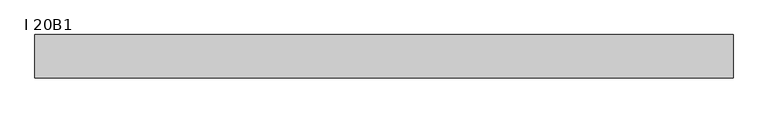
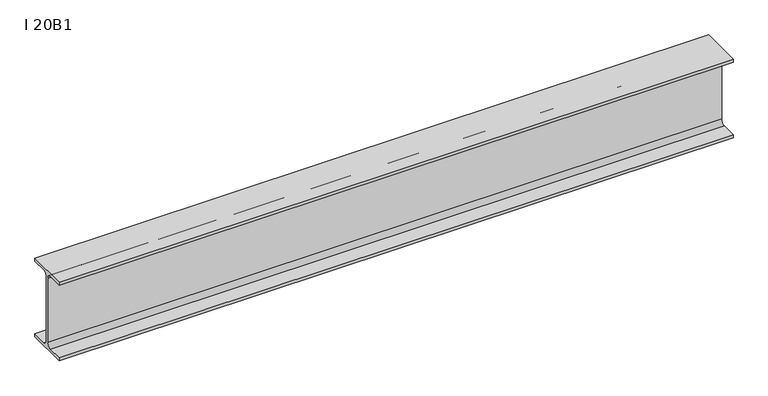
"""IFC4 building model written with IfcOpenShell, lengths in millimetres: beam geometry, Двутавровая балка с параллельными гранями полок типа Б (ТУ 14-2-24-72) Балки : I 20B1."""

from ifc_helpers import new_model, si_unit, point, frame, frame_2d, origin, place, context, project, spatial, polyline, circle_curve, trimmed, segment, composite_curve, outline, extrude, source, transform, mapped, element, save


def i_20b1_4eef6bfe(model_context):
    return source(origin(), model_context, "Body", "SweptSolid", [
        extrude(outline(composite_curve([segment(polyline([(50.0, -91.4), (50.0, -99.0), (-50.0, -99.0), (-50.0, -91.4), (-13.6, -91.4)]), True, "CONTINUOUS"), segment(trimmed(circle_curve(frame_2d((-13.6, -80.4)), 11.0), [point((-13.6, -91.4))], [point((-2.6, -80.4))], True, "CARTESIAN"), True, "CONTINUOUS"), segment(polyline([(-2.6, -80.4), (-2.6, 80.4)]), True, "CONTINUOUS"), segment(trimmed(circle_curve(frame_2d((-13.6, 80.4)), 11.0), [point((-2.6, 80.4))], [point((-13.6, 91.4))], True, "CARTESIAN"), True, "CONTINUOUS"), segment(polyline([(-13.6, 91.4), (-50.0, 91.4), (-50.0, 99.0), (50.0, 99.0), (50.0, 91.4), (13.6, 91.4)]), True, "CONTINUOUS"), segment(trimmed(circle_curve(frame_2d((13.6, 80.4)), 11.0), [point((13.6, 91.4))], [point((2.6, 80.4))], True, "CARTESIAN"), True, "CONTINUOUS"), segment(polyline([(2.6, 80.4), (2.6, -80.4)]), True, "CONTINUOUS"), segment(trimmed(circle_curve(frame_2d((13.6, -80.4)), 11.0), [point((2.6, -80.4))], [point((13.6, -91.4))], True, "CARTESIAN"), True, "CONTINUOUS"), segment(polyline([(13.6, -91.4), (50.0, -91.4)]), True, "CONTINUOUS")], self_intersect=False)), frame((-795.0, 0.0, 0.0), z_axis=(1.0, 0.0, 0.0), x_axis=(0.0, 1.0, 0.0)), (0.0, 0.0, 1.0), 1603.0),
    ])


if __name__ == "__main__":
    model = new_model("IFC4")
    model_context = context("Model", 3, world=origin())
    ifc_project = project(units=[si_unit("LENGTHUNIT", "METRE", prefix="MILLI")], contexts=[model_context])
    site = spatial("IfcSite", under=ifc_project)
    building = spatial("IfcBuilding", under=site)
    placement = place(None, origin())
    i_20b1_shape = i_20b1_4eef6bfe(model_context)
    element("IfcBeam", 1, ObjectType="Двутавровая балка с параллельными гранями полок типа Б (ТУ 14-2-24-72) Балки : I 20B1", at=placement, inside=building, context=model_context, shape_type="MappedRepresentation", body=[
        mapped(i_20b1_shape, transform((0.0, 0.0, 0.0), x_axis=(1.0, 0.0, 0.0), y_axis=(0.0, 1.0, 0.0), z_axis=(0.0, 0.0, 1.0))),
    ])
    save(model, "model.ifc")
